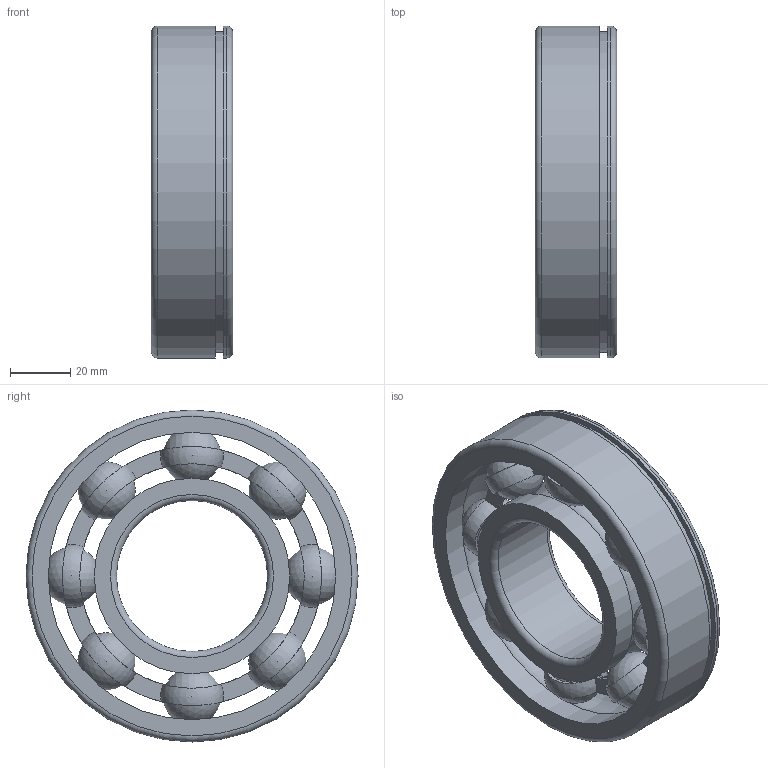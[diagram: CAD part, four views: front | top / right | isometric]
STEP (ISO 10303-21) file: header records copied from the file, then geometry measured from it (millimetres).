
FILE_DESCRIPTION(/* description */ (''),/* implementation_level */ '2;1');
FILE_NAME(/* name */ 'D:\moje\parametrické\63--\rada63--\63--\6310N.stp',/* time_stamp */ '2016-02-12T13:00:23+01:00',/* author */ ('OUBALASKO'),/* organization */ (''),/* preprocessor_version */ 'ST-DEVELOPER v15.2',/* originating_system */ 'Autodesk Inventor 2014',/* authorisation */ '');
FILE_SCHEMA (('AUTOMOTIVE_DESIGN { 1 0 10303 214 3 1 1 }'));
Length unit declared in the file: millimetre
Products named in the file (5): 6310-02; 6310-ball; 6310-cage; 6310-01N; 6310N
Bounding box: 27 x 110 x 110 mm (x, y, z)
Volume: 122778.4 mm3; surface area: 53492.8 mm2
Topology: 12 solids, 12 shells, 96 faces, 354 edges, 232 vertices
Faces by surface type: sphere 40, plane 38, cylinder 12, torus 6
Full cylindrical faces by diameter (mm): 50 x1, 64.76 x2, 74.285 x2, 85.715 x2, 95.24 x2, 106.3 x1, 110 x2
Entity records: 2352 total; most frequent: CARTESIAN_POINT 947, DIRECTION 314, ORIENTED_EDGE 234, AXIS2_PLACEMENT_3D 157, EDGE_CURVE 117, VERTEX_POINT 86, CIRCLE 85, EDGE_LOOP 77
